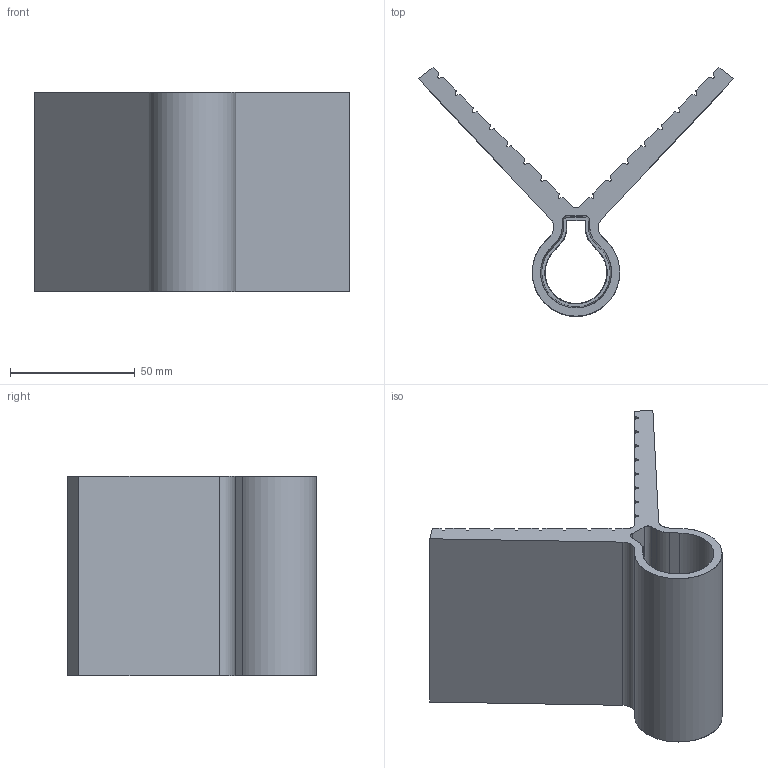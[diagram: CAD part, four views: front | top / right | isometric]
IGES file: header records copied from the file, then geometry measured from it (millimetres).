
Global section: file name: C:\Users\rendering\Desktop\3d host\CONSEGNA\Kite shelf_3d_Patricia Urquiola_Kartell.igs; native system: Rhinoceros ( May 22 2017 ); preprocessor: Trout Lake IGES 012 May 22 2017; date: 171013.155345; units: millimetre
Bounding box: 126.22 x 99.52 x 80 mm (x, y, z)
Surface area: 48448.8 mm2 (no closed solid volume)
Topology: 0 solids, 0 shells, 136 faces, 2055 edges, 2055 vertices
Faces by surface type: bspline 136
